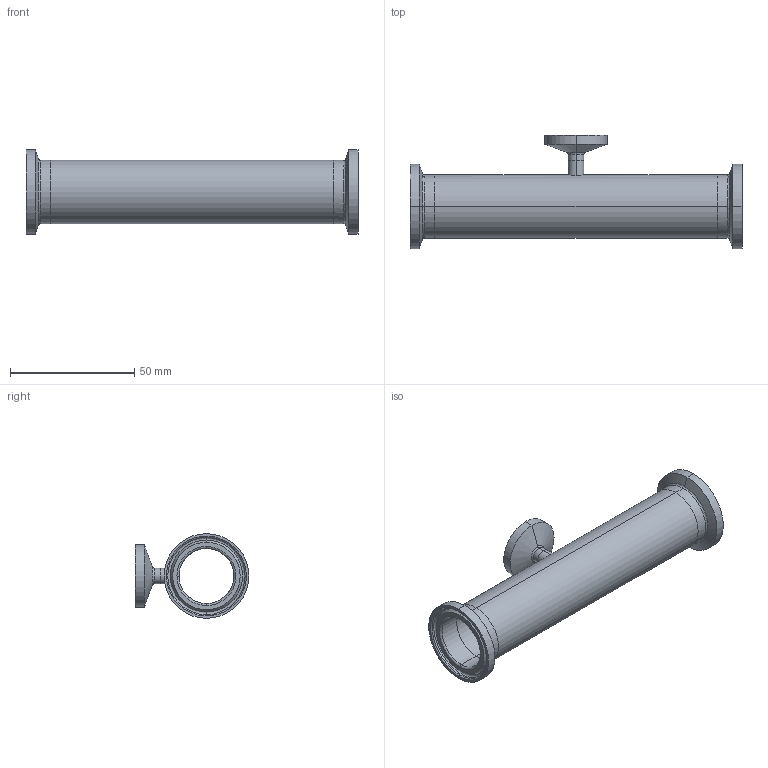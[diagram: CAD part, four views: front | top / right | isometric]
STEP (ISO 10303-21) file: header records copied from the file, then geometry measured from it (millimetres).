
FILE_DESCRIPTION (( 'STEP AP214' ), '1' );
FILE_NAME ('TEG7RS6L1.0x.25-..Type A.STEP', '2016-05-24T08:09:49', ( 'eran' ), ( '' ), 'SwSTEP 2.0', 'SolidWorks 2016', '' );
FILE_SCHEMA (( 'AUTOMOTIVE_DESIGN' ));
Length unit declared in the file: millimetre
Products named in the file (1): TEG7RS6L1.0x.25-..Type A
Bounding box: 133.4 x 45.61 x 34.01 mm (x, y, z)
Volume: 21083.6 mm3; surface area: 24306.1 mm2
Topology: 4 solids, 4 shells, 80 faces, 176 edges, 108 vertices
Faces by surface type: cylinder 32, bspline 24, plane 12, cone 12
Entity records: 2693 total; most frequent: CARTESIAN_POINT 885, DIRECTION 390, ORIENTED_EDGE 352, EDGE_CURVE 176, AXIS2_PLACEMENT_3D 173, CIRCLE 116, VERTEX_POINT 108, EDGE_LOOP 94
